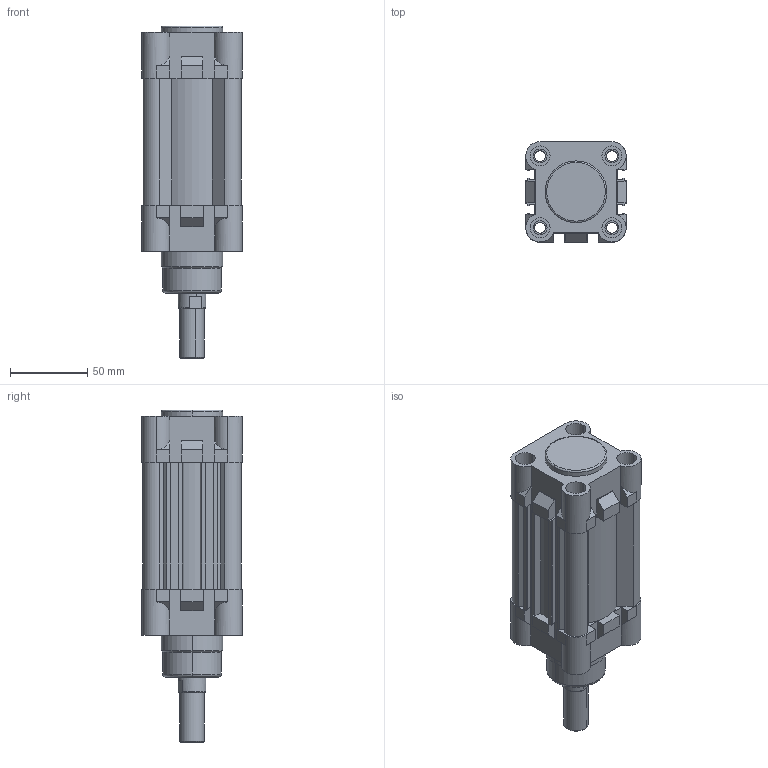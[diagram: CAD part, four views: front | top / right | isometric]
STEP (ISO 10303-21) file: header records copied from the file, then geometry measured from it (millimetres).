
FILE_DESCRIPTION (( 'STEP AP214' ), '1' );
FILE_NAME ('RIC50_50_MY_WEB.STEP', '2020-07-02T11:01:30', ( '' ), ( '' ), 'SwSTEP 2.0', 'SolidWorks 2018', '' );
FILE_SCHEMA (( 'AUTOMOTIVE_DESIGN' ));
Length unit declared in the file: millimetre
Products named in the file (6): 50_ON_KAPAK_WEB; RIC50_50_MY_WEB; 50_BORU; 50_ARKA_KAPAK_WEB; 50bogazkecesi; 20_MIL_WEB
Assembly tree (5 placements, depth 2):
  RIC50_50_MY_WEB
    50_BORU
    50_ARKA_KAPAK_WEB
    50_ON_KAPAK_WEB
    20_MIL_WEB
    50bogazkecesi
Bounding box: 65 x 65 x 215 mm (x, y, z)
Volume: 327239.9 mm3; surface area: 119511 mm2
Topology: 5 solids, 5 shells, 416 faces, 1030 edges, 662 vertices
Faces by surface type: plane 186, cylinder 172, cone 40, torus 16, bspline 2
Entity records: 13251 total; most frequent: CARTESIAN_POINT 2653, DIRECTION 2266, ORIENTED_EDGE 2060, EDGE_CURVE 1030, AXIS2_PLACEMENT_3D 840, VERTEX_POINT 662, LINE 586, VECTOR 586
